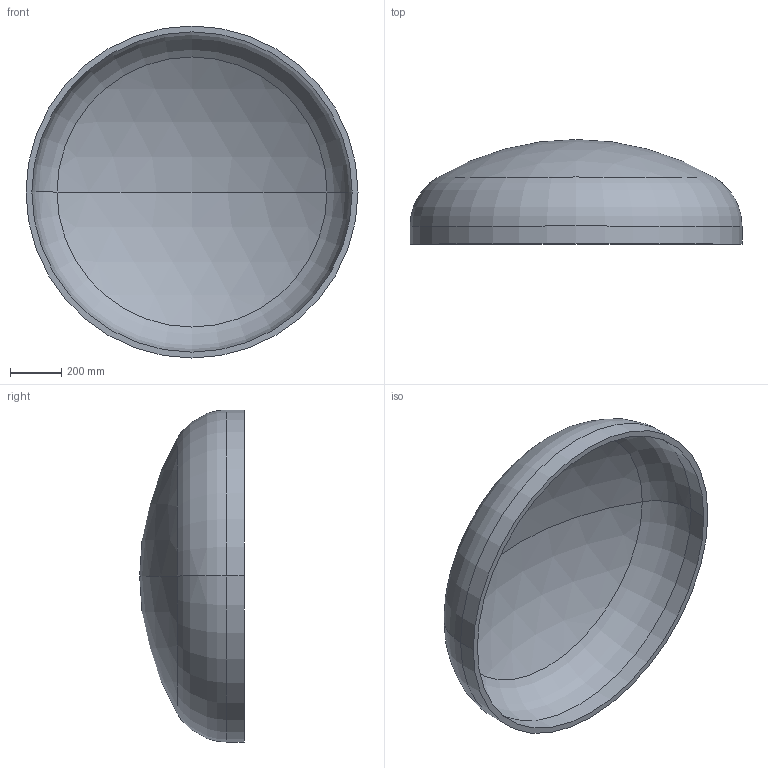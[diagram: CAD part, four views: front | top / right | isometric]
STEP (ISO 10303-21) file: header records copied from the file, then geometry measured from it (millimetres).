
FILE_DESCRIPTION (( 'STEP AP203' ), '1' );
FILE_NAME ('DIN 28013 Korbbogenform_-_Boden DIN 28013 - 1300 x 70 - I - s=23.step', '2016-07-01T09:46:16', ( '' ), ( '' ), 'SwSTEP 2.0', 'SolidWorks 2013', '' );
FILE_SCHEMA (( 'CONFIG_CONTROL_DESIGN' ));
Length unit declared in the file: millimetre
Products named in the file (1): DIN 28013 Korbbogenform_-_Boden DIN 28013 - 1300 x 70 - I - s=23
Bounding box: 1300 x 409.63 x 1300 mm (x, y, z)
Volume: 47757353.8 mm3; surface area: 4246191.7 mm2
Topology: 1 solids, 1 shells, 13 faces, 24 edges, 14 vertices
Faces by surface type: torus 4, cylinder 4, sphere 4, plane 1
Entity records: 407 total; most frequent: DIRECTION 72, CARTESIAN_POINT 52, ORIENTED_EDGE 48, AXIS2_PLACEMENT_3D 34, EDGE_CURVE 24, CIRCLE 20, EDGE_LOOP 14, VERTEX_POINT 14
